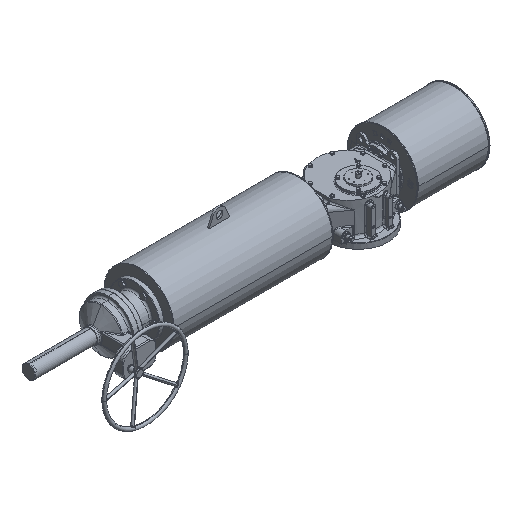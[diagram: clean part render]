
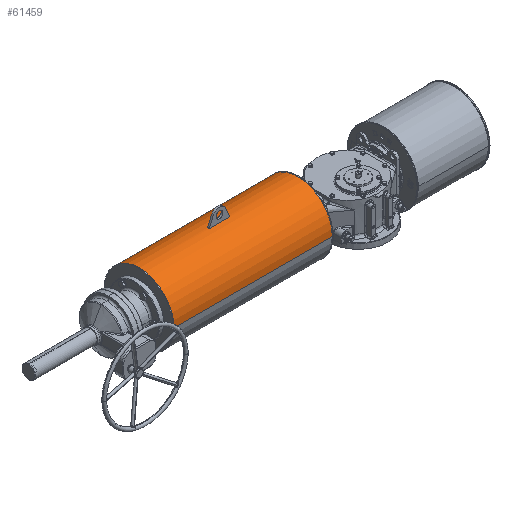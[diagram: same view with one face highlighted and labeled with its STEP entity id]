
A CAD part, isometric view. The second image highlights one B-rep face of the part: STEP entity #61459.
In plain terms, the highlighted cylindrical face has radius 203.2 mm (diameter 406.4 mm), a partial arc.
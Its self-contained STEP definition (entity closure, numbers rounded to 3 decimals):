
#599 = DIRECTION ( 'NONE',  ( 0., 1., 0. ) ) ;
#1245 = EDGE_CURVE ( 'NONE', #43220, #85944, #74548, .T. ) ;
#1954 = CARTESIAN_POINT ( 'NONE',  ( -774., 103., 285.638 ) ) ;
#3204 = CIRCLE ( 'NONE', #30923, 203.2 ) ;
#3776 = CARTESIAN_POINT ( 'NONE',  ( -248.3, -95.2, 82.5 ) ) ;
#4337 = AXIS2_PLACEMENT_3D ( 'NONE', #43000, #34030, #19826 ) ;
#4668 = ORIENTED_EDGE ( 'NONE', *, *, #1245, .F. ) ;
#6009 = DIRECTION ( 'NONE',  ( 0., 1., 0. ) ) ;
#6377 = DIRECTION ( 'NONE',  ( -1., 0., 0. ) ) ;
#7557 = ORIENTED_EDGE ( 'NONE', *, *, #9852, .T. ) ;
#9076 = CARTESIAN_POINT ( 'NONE',  ( -774., 108., 82.5 ) ) ;
#9852 = EDGE_CURVE ( 'NONE', #79396, #50217, #44421, .T. ) ;
#11972 = LINE ( 'NONE', #39865, #67798 ) ;
#12754 = VERTEX_POINT ( 'NONE', #27018 ) ;
#13662 = DIRECTION ( 'NONE',  ( 0., 1., 0. ) ) ;
#16505 = ORIENTED_EDGE ( 'NONE', *, *, #21162, .T. ) ;
#17355 = CARTESIAN_POINT ( 'NONE',  ( -1176.5, 108., 82.5 ) ) ;
#17391 = CARTESIAN_POINT ( 'NONE',  ( -654., 103., 285.638 ) ) ;
#18724 = DIRECTION ( 'NONE',  ( 1., 0., 0. ) ) ;
#19826 = DIRECTION ( 'NONE',  ( 0., 0., -1. ) ) ;
#19852 = DIRECTION ( 'NONE',  ( 1., 0., 0. ) ) ;
#20222 = CARTESIAN_POINT ( 'NONE',  ( -248.3, 108., 82.5 ) ) ;
#20897 = EDGE_CURVE ( 'NONE', #82715, #85944, #43677, .T. ) ;
#21162 = EDGE_CURVE ( 'NONE', #12754, #63770, #68502, .T. ) ;
#22152 = VECTOR ( 'NONE', #25687, 1000. ) ;
#22878 = ORIENTED_EDGE ( 'NONE', *, *, #87539, .T. ) ;
#23052 = VERTEX_POINT ( 'NONE', #47675 ) ;
#24006 = VERTEX_POINT ( 'NONE', #33996 ) ;
#24960 = AXIS2_PLACEMENT_3D ( 'NONE', #9076, #84403, #43802 ) ;
#25687 = DIRECTION ( 'NONE',  ( 1., 0., 0. ) ) ;
#26532 = ORIENTED_EDGE ( 'NONE', *, *, #51229, .T. ) ;
#27018 = CARTESIAN_POINT ( 'NONE',  ( -774., 113., 285.638 ) ) ;
#27899 = CIRCLE ( 'NONE', #51235, 203.2 ) ;
#28698 = VERTEX_POINT ( 'NONE', #3776 ) ;
#29456 = DIRECTION ( 'NONE',  ( -1., 0., 0. ) ) ;
#30923 = AXIS2_PLACEMENT_3D ( 'NONE', #68573, #89523, #6009 ) ;
#31369 = AXIS2_PLACEMENT_3D ( 'NONE', #47503, #6377, #13662 ) ;
#32090 = VECTOR ( 'NONE', #54797, 1000. ) ;
#32249 = LINE ( 'NONE', #33600, #54655 ) ;
#33318 = EDGE_LOOP ( 'NONE', ( #16505, #43024, #63206, #4668, #73303, #26532 ) ) ;
#33600 = CARTESIAN_POINT ( 'NONE',  ( -1176.5, 311.2, 82.5 ) ) ;
#33810 = CARTESIAN_POINT ( 'NONE',  ( -1176.5, 113., 285.638 ) ) ;
#33996 = CARTESIAN_POINT ( 'NONE',  ( -774., 108., 285.7 ) ) ;
#34030 = DIRECTION ( 'NONE',  ( 1., 0., 0. ) ) ;
#34319 = CIRCLE ( 'NONE', #31369, 203.2 ) ;
#36432 = EDGE_LOOP ( 'NONE', ( #66057, #46667, #22878, #7557, #71984 ) ) ;
#36654 = EDGE_CURVE ( 'NONE', #23052, #50217, #32249, .T. ) ;
#39865 = CARTESIAN_POINT ( 'NONE',  ( -1176.5, -95.2, 82.5 ) ) ;
#41674 = EDGE_CURVE ( 'NONE', #43220, #24006, #58534, .T. ) ;
#43000 = CARTESIAN_POINT ( 'NONE',  ( -654., 108., 82.5 ) ) ;
#43024 = ORIENTED_EDGE ( 'NONE', *, *, #70466, .T. ) ;
#43220 = VERTEX_POINT ( 'NONE', #1954 ) ;
#43677 = CIRCLE ( 'NONE', #4337, 203.2 ) ;
#43802 = DIRECTION ( 'NONE',  ( 0., 0., 1. ) ) ;
#44421 = CIRCLE ( 'NONE', #56077, 203.2 ) ;
#46628 = DIRECTION ( 'NONE',  ( 0., 1., 0. ) ) ;
#46667 = ORIENTED_EDGE ( 'NONE', *, *, #87160, .T. ) ;
#47503 = CARTESIAN_POINT ( 'NONE',  ( -248.3, 108., 82.5 ) ) ;
#47675 = CARTESIAN_POINT ( 'NONE',  ( -1179.7, 311.2, 82.5 ) ) ;
#47965 = CIRCLE ( 'NONE', #53821, 203.2 ) ;
#49975 = VERTEX_POINT ( 'NONE', #89585 ) ;
#50217 = VERTEX_POINT ( 'NONE', #72114 ) ;
#51229 = EDGE_CURVE ( 'NONE', #24006, #12754, #27899, .T. ) ;
#51235 = AXIS2_PLACEMENT_3D ( 'NONE', #78756, #29456, #85114 ) ;
#51705 = EDGE_CURVE ( 'NONE', #23052, #49975, #3204, .T. ) ;
#52105 = FACE_BOUND ( 'NONE', #33318, .T. ) ;
#53821 = AXIS2_PLACEMENT_3D ( 'NONE', #88266, #74598, #75503 ) ;
#54655 = VECTOR ( 'NONE', #19852, 1000. ) ;
#54797 = DIRECTION ( 'NONE',  ( 1., 0., 0. ) ) ;
#56077 = AXIS2_PLACEMENT_3D ( 'NONE', #20222, #68659, #599 ) ;
#57284 = CARTESIAN_POINT ( 'NONE',  ( -654., 108., 285.7 ) ) ;
#58534 = CIRCLE ( 'NONE', #24960, 203.2 ) ;
#59934 = DIRECTION ( 'NONE',  ( 1., 0., 0. ) ) ;
#61459 = ADVANCED_FACE ( 'NONE', ( #52105, #81303 ), #79937, .T. ) ;
#63206 = ORIENTED_EDGE ( 'NONE', *, *, #20897, .T. ) ;
#63694 = CARTESIAN_POINT ( 'NONE',  ( -654., 113., 285.638 ) ) ;
#63770 = VERTEX_POINT ( 'NONE', #63694 ) ;
#66057 = ORIENTED_EDGE ( 'NONE', *, *, #51705, .T. ) ;
#67798 = VECTOR ( 'NONE', #59934, 1000. ) ;
#68502 = LINE ( 'NONE', #33810, #32090 ) ;
#68573 = CARTESIAN_POINT ( 'NONE',  ( -1179.7, 108., 82.5 ) ) ;
#68659 = DIRECTION ( 'NONE',  ( -1., 0., 0. ) ) ;
#70466 = EDGE_CURVE ( 'NONE', #63770, #82715, #47965, .T. ) ;
#71984 = ORIENTED_EDGE ( 'NONE', *, *, #36654, .F. ) ;
#72114 = CARTESIAN_POINT ( 'NONE',  ( -248.3, 311.2, 82.5 ) ) ;
#73303 = ORIENTED_EDGE ( 'NONE', *, *, #41674, .T. ) ;
#74548 = LINE ( 'NONE', #80468, #22152 ) ;
#74598 = DIRECTION ( 'NONE',  ( 1., 0., 0. ) ) ;
#75503 = DIRECTION ( 'NONE',  ( 0., 0., -1. ) ) ;
#78756 = CARTESIAN_POINT ( 'NONE',  ( -774., 108., 82.5 ) ) ;
#79396 = VERTEX_POINT ( 'NONE', #89458 ) ;
#79937 = CYLINDRICAL_SURFACE ( 'NONE', #81946, 203.2 ) ;
#80468 = CARTESIAN_POINT ( 'NONE',  ( -1176.5, 103., 285.638 ) ) ;
#81303 = FACE_OUTER_BOUND ( 'NONE', #36432, .T. ) ;
#81946 = AXIS2_PLACEMENT_3D ( 'NONE', #17355, #18724, #46628 ) ;
#82715 = VERTEX_POINT ( 'NONE', #57284 ) ;
#84403 = DIRECTION ( 'NONE',  ( -1., 0., 0. ) ) ;
#85114 = DIRECTION ( 'NONE',  ( 0., 0., 1. ) ) ;
#85944 = VERTEX_POINT ( 'NONE', #17391 ) ;
#87160 = EDGE_CURVE ( 'NONE', #49975, #28698, #11972, .T. ) ;
#87539 = EDGE_CURVE ( 'NONE', #28698, #79396, #34319, .T. ) ;
#88266 = CARTESIAN_POINT ( 'NONE',  ( -654., 108., 82.5 ) ) ;
#89458 = CARTESIAN_POINT ( 'NONE',  ( -248.3, 108., 285.7 ) ) ;
#89523 = DIRECTION ( 'NONE',  ( 1., 0., 0. ) ) ;
#89585 = CARTESIAN_POINT ( 'NONE',  ( -1179.7, -95.2, 82.5 ) ) ;
